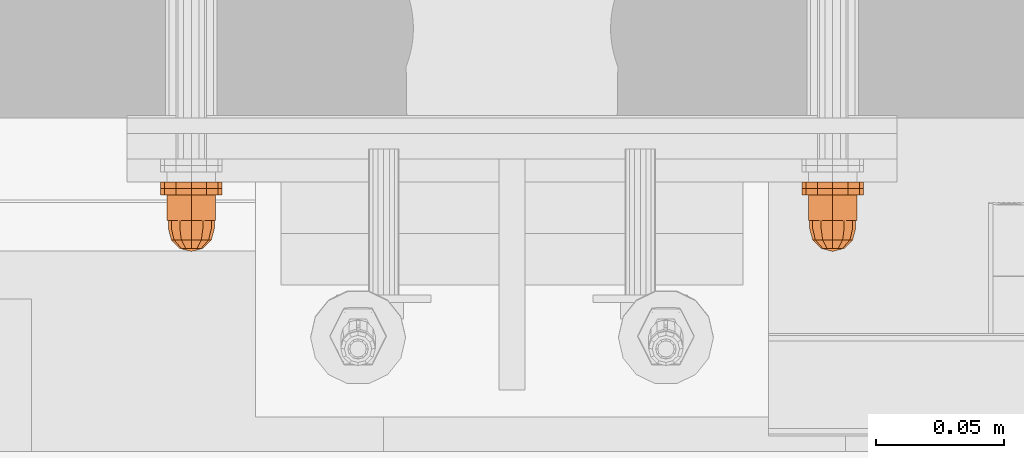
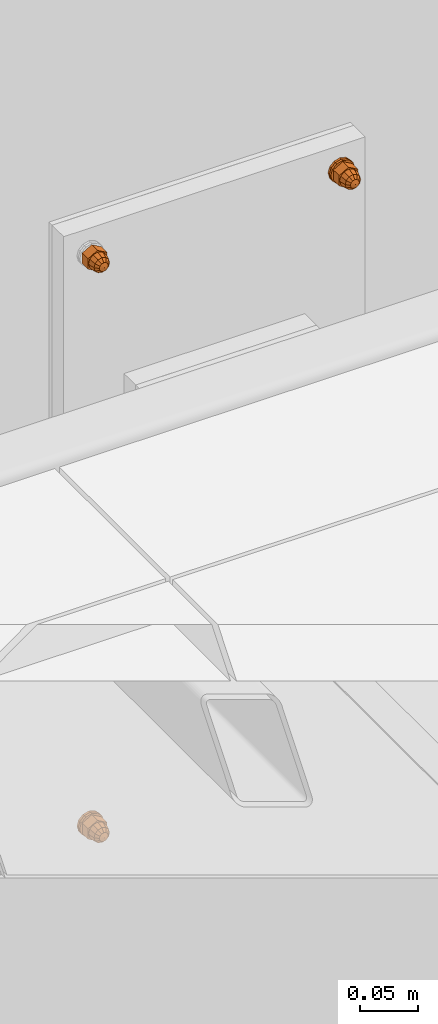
# One storey, part 153 of 162: 7 proxies.
"""IFC2X3 building model written with IfcOpenShell, lengths in millimetres."""

import ifcopenshell
import ifcopenshell.guid

model = None  # the IFC model being written
_history = None  # IfcOwnerHistory: only IFC2X3 demands one
_inside = {}  # id of a spatial element -> (the spatial element, [elements in it])
_under = {}  # id of a project, library or spatial element -> (it, [spatial elements below it])
_declared = {}  # id of a project -> (the project, [libraries it declares])
_typed = {}  # id of a type object -> (the type object, [elements of that type])
_made_of = {}  # id of a material, layer set ... -> (it, [elements and type objects made of it])


def new_model(schema):
    """Start an empty IFC model of exactly this schema.

    Asked for "IFC4X3", IfcOpenShell would pick the latest addendum, in which some entities
    have other attributes; the version numbers below select the first issue.
    IFC2X3 requires an IfcOwnerHistory on every rooted entity: one is made here for all.
    """
    global model, _history
    if schema == "IFC4X3":
        model = ifcopenshell.file(schema_version=(4, 3, 0, 0))
    else:
        model = ifcopenshell.file(schema=schema)
    _inside.clear()
    _under.clear()
    _declared.clear()
    _typed.clear()
    _made_of.clear()
    _history = None
    if model.schema == "IFC2X3":
        org = make("IfcOrganization", Name="unknown")
        user = make(
            "IfcPersonAndOrganization",
            ThePerson=make("IfcPerson", FamilyName="unknown"),
            TheOrganization=org,
        )
        app = make(
            "IfcApplication",
            ApplicationDeveloper=org,
            Version="unknown",
            ApplicationFullName="unknown",
            ApplicationIdentifier="unknown",
        )
        _history = make(
            "IfcOwnerHistory",
            OwningUser=user,
            OwningApplication=app,
            ChangeAction="ADDED",
            CreationDate=0,
        )
    return model


def make(cls, **values):
    """One entity of the class cls with the attributes given. An attribute that is None is left unset."""
    return model.create_entity(
        cls, **{name: value for name, value in values.items() if value is not None}
    )


def entity(cls, *values):
    """Any entity or typed value of the class cls, its attributes in the order of the schema. None: left unset."""
    e = model.create_entity(cls)
    for i, value in enumerate(values):
        if value is not None:
            e[i] = value
    return e


def rooted(cls, **values):
    """An entity with a GlobalId (a new one), such as an element, a storey or a relation."""
    return make(cls, GlobalId=ifcopenshell.guid.new(), OwnerHistory=_history, **values)


def si_unit(unit_type, name, prefix=None):
    """IfcSIUnit, for example si_unit("LENGTHUNIT", "METRE", prefix="MILLI")."""
    return make("IfcSIUnit", UnitType=unit_type, Prefix=prefix, Name=name)


def converted_unit(unit_type, name, factor, base, dimensions=None, offset=None):
    """IfcConversionBasedUnit, such as the inch: factor (a typed value) times the base unit."""
    return make(
        "IfcConversionBasedUnit"
        if offset is None
        else "IfcConversionBasedUnitWithOffset",
        ConversionOffset=offset,
        Dimensions=None
        if dimensions is None
        else entity("IfcDimensionalExponents", *dimensions),
        UnitType=unit_type,
        Name=name,
        ConversionFactor=make(
            "IfcMeasureWithUnit", ValueComponent=factor, UnitComponent=base
        ),
    )


def assignment(units):
    """IfcUnitAssignment: the units of a project."""
    return None if units is None else make("IfcUnitAssignment", Units=units)


def point(xyz):
    """IfcCartesianPoint."""
    return None if xyz is None else make("IfcCartesianPoint", Coordinates=xyz)


def direction(xyz):
    """IfcDirection."""
    return None if xyz is None else make("IfcDirection", DirectionRatios=xyz)


def frame(location, z_axis=None, x_axis=None):
    """IfcAxis2Placement3D, a coordinate frame: its origin and axes. An axis left out is left unset."""
    return make(
        "IfcAxis2Placement3D",
        Location=point(location),
        Axis=direction(z_axis),
        RefDirection=direction(x_axis),
    )


def origin_with_axes():
    """The frame at (0, 0, 0) with the z axis (0, 0, 1) and the x axis (1, 0, 0) written out."""
    return frame((0.0, 0.0, 0.0), z_axis=(0.0, 0.0, 1.0), x_axis=(1.0, 0.0, 0.0))


def place(relative_to, where):
    """IfcLocalPlacement: puts the frame where relative to a parent placement (None: the world)."""
    return make(
        "IfcLocalPlacement", PlacementRelTo=relative_to, RelativePlacement=where
    )


def context(
    kind, dimensions, precision=None, world=None, true_north=None, identifier=None
):
    """IfcGeometricRepresentationContext, for example the 3D "Model" context."""
    return make(
        "IfcGeometricRepresentationContext",
        ContextIdentifier=identifier,
        ContextType=kind,
        CoordinateSpaceDimension=dimensions,
        Precision=precision,
        WorldCoordinateSystem=world,
        TrueNorth=true_north,
    )


def project(units=None, contexts=None):
    """IfcProject with its units and contexts."""
    return rooted(
        "IfcProject",
        Name="project",
        RepresentationContexts=contexts,
        UnitsInContext=assignment(units),
    )


def spatial(cls, under=None, at=None, **own):
    """A site, building, storey or space (cls), placed at a placement, below another one or the project."""
    s = rooted(cls, ObjectPlacement=at, **own)
    if under is not None:
        _under.setdefault(under.id(), (under, []))[1].append(s)
    return s


def faces_of(points, faces, orient=None, outer=None):
    """IfcFace entities. A face is a list of loops; a loop is a list of indices into points, from 0.

    orient and outer hold one flag for each loop. By default every Orientation is true, the
    first loop of a face is its IfcFaceOuterBound and the others are IfcFaceBound.
    """
    made = []
    for i, loops in enumerate(faces):
        bounds = []
        for j, loop in enumerate(loops):
            is_outer = j == 0 if outer is None else outer[i][j]
            bounds.append(
                make(
                    "IfcFaceOuterBound" if is_outer else "IfcFaceBound",
                    Bound=make("IfcPolyLoop", Polygon=[points[k] for k in loop]),
                    Orientation=True if orient is None else orient[i][j],
                )
            )
        made.append(make("IfcFace", Bounds=bounds))
    return made


def faceted_brep(points, faces, orient=None, outer=None, voids=None):
    """IfcFacetedBrep: a solid bounded by flat faces; with voids (closed shells), ...WithVoids."""
    shared = [point(p) for p in points]
    hull = make("IfcClosedShell", CfsFaces=faces_of(shared, faces, orient, outer))
    if voids is None:
        return make("IfcFacetedBrep", Outer=hull)
    return make(
        "IfcFacetedBrepWithVoids",
        Outer=hull,
        Voids=[
            make(cls, CfsFaces=faces_of(shared, fs, o, b)) for cls, fs, o, b in voids
        ],
    )


def shape(context_of_items, identifier, shape_type, items):
    """IfcShapeRepresentation: the items that make up one representation, for example the "Body"."""
    return make(
        "IfcShapeRepresentation",
        ContextOfItems=context_of_items,
        RepresentationIdentifier=identifier,
        RepresentationType=shape_type,
        Items=items,
    )


def material(Name=None, Category=None):
    """IfcMaterial."""
    return make("IfcMaterial", Name=Name, Category=Category)


def made_of(thing, what):
    """Note that an element or type object is made of a material, layer set ...; save() writes the relation."""
    if what is not None:
        _made_of.setdefault(what.id(), (what, []))[1].append(thing)
    return thing


def element(
    cls,
    number,
    at=None,
    inside=None,
    cuts=None,
    type_object=None,
    material=None,
    context=None,
    identifier="Body",
    shape_type=None,
    held_by="IfcProductDefinitionShape",
    body=None,
    shapes=None,
    **own,
):
    """One element of the class cls, such as IfcWall. Its Tag is "e" and its number.

    at: its placement. inside: the storey or other place that contains it. cuts: it is an
    opening in that element (IfcRelVoidsElement). A single representation is given by context,
    identifier, shape_type and body (its items); several are given by shapes. held_by: the class
    of the entity that holds the representations. save() writes the other relations.
    """
    e = rooted(cls, Tag="e%d" % number, ObjectPlacement=at, **own)
    if body is not None:
        shapes = [shape(context, identifier, shape_type, body)]
    if shapes is not None:
        e.Representation = make(held_by, Representations=shapes)
    if inside is not None:
        _inside.setdefault(inside.id(), (inside, []))[1].append(e)
    if cuts is not None:
        rooted(
            "IfcRelVoidsElement", RelatingBuildingElement=cuts, RelatedOpeningElement=e
        )
    if type_object is not None:
        _typed.setdefault(type_object.id(), (type_object, []))[1].append(e)
    return made_of(e, material)


def aggregate(whole, parts):
    """IfcRelAggregates: a whole, such as a stair, and the parts it consists of."""
    return rooted("IfcRelAggregates", RelatingObject=whole, RelatedObjects=parts)


def save(model, path):
    """Write the relations noted so far, then the file.

    IfcRelAggregates (storeys below a building ...), IfcRelContainedInSpatialStructure (elements
    in a storey), IfcRelDefinesByType, IfcRelAssociatesMaterial and IfcRelDeclares: one each for
    every whole, place, type object, material and project.
    """
    for whole, parts in _under.values():
        aggregate(whole, parts)
    for where, things in _inside.values():
        rooted(
            "IfcRelContainedInSpatialStructure",
            RelatedElements=things,
            RelatingStructure=where,
        )
    for kind, things in _typed.values():
        rooted("IfcRelDefinesByType", RelatedObjects=things, RelatingType=kind)
    for what, things in _made_of.values():
        rooted("IfcRelAssociatesMaterial", RelatedObjects=things, RelatingMaterial=what)
    for by, libraries in _declared.values():
        rooted("IfcRelDeclares", RelatingContext=by, RelatedDefinitions=libraries)
    model.write(path)


model = new_model("IFC2X3")

# Units and contexts
model_context = context("Model", 3, precision=1e-09, world=origin_with_axes())
ifc_project = project(units=[si_unit("LENGTHUNIT", "METRE", prefix="MILLI"), si_unit("AREAUNIT", "SQUARE_METRE"), si_unit("VOLUMEUNIT", "CUBIC_METRE"), converted_unit("PLANEANGLEUNIT", "DEGREE", entity("IfcPlaneAngleMeasure", 0.01745329), si_unit("PLANEANGLEUNIT", "RADIAN"), dimensions=[0, 0, 0, 0, 0, 0, 0])], contexts=[model_context])

# Site, building, storey
site_placement = place(None, origin_with_axes())
site = spatial("IfcSite", under=ifc_project, at=site_placement, Name="Hermannstra?e 1a, 60318 Frankfurt", CompositionType="ELEMENT")
building_placement = place(site_placement, origin_with_axes())
building = spatial("IfcBuilding", under=site, at=building_placement, Name="Struktur 1", CompositionType="ELEMENT")
storey_placement = place(building_placement, origin_with_axes())
storey = spatial("IfcBuildingStorey", under=building, at=storey_placement, Name="Default Storey", CompositionType="ELEMENT", Elevation=0.0)

# Proxies
ifc_material_1 = material(Name="Kunststoff")
proxy_1_placement = place(None, origin_with_axes())
element("IfcBuildingElementProxy", 1, at=proxy_1_placement, inside=storey, material=ifc_material_1, ObjectType="-", context=model_context, shape_type="Brep", body=[
    faceted_brep([(5458.702376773, 2710.610081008, 14767.999), (5458.702376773, 2708.110081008, 14767.999), (5460.310071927, 2708.110081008, 14761.999), (5460.310071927, 2710.610081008, 14761.999), (5453.939237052, 2710.610081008, 14765.249), (5451.560071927, 2710.610081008, 14767.628165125), (5448.310071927, 2710.610081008, 14768.499), (5445.060071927, 2710.610081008, 14767.628165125), (5442.680906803, 2710.610081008, 14765.249), (5441.810071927, 2710.610081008, 14761.999), (5442.680906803, 2710.610081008, 14758.749), (5445.060071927, 2710.610081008, 14756.369834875), (5448.310071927, 2710.610081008, 14755.499), (5451.560071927, 2710.610081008, 14756.369834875), (5453.939237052, 2710.610081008, 14758.749), (5454.810071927, 2710.610081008, 14761.999), (5454.810071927, 2708.110081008, 14761.999), (5453.939237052, 2708.110081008, 14765.249), (5454.310071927, 2708.110081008, 14772.391304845), (5448.310071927, 2708.110081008, 14773.999), (5442.310071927, 2708.110081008, 14772.391304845), (5437.917767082, 2708.110081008, 14767.999), (5436.310071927, 2708.110081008, 14761.999), (5437.917767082, 2708.110081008, 14755.999), (5442.310071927, 2708.110081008, 14751.606695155), (5448.310071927, 2708.110081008, 14749.999), (5454.310071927, 2708.110081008, 14751.606695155), (5458.702376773, 2708.110081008, 14755.999), (5454.310071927, 2710.610081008, 14772.391304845), (5453.939237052, 2708.110081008, 14758.749), (5458.702376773, 2710.610081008, 14755.999), (5451.560071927, 2708.110081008, 14767.628165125), (5448.310071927, 2710.610081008, 14773.999), (5451.560071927, 2708.110081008, 14756.369834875), (5454.310071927, 2710.610081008, 14751.606695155), (5448.310071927, 2708.110081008, 14768.499), (5448.310071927, 2708.110081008, 14755.499), (5442.310071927, 2710.610081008, 14772.391304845), (5445.060071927, 2708.110081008, 14767.628165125), (5448.310071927, 2710.610081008, 14749.999), (5445.060071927, 2708.110081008, 14756.369834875), (5437.917767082, 2710.610081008, 14767.999), (5442.680906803, 2708.110081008, 14765.249), (5442.310071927, 2710.610081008, 14751.606695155), (5442.680906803, 2708.110081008, 14758.749), (5436.310071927, 2710.610081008, 14761.999), (5441.810071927, 2708.110081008, 14761.999), (5437.917767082, 2710.610081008, 14755.999)], [[[0, 1, 2, 3]], [[4, 5, 6, 7, 8, 9, 10, 11, 12, 13, 14, 15]], [[15, 16, 17, 4]], [[1, 18, 19, 20, 21, 22, 23, 24, 25, 26, 27, 2]], [[1, 0, 28, 18]], [[16, 15, 14, 29]], [[3, 2, 27, 30]], [[4, 17, 31, 5]], [[18, 28, 32, 19]], [[29, 14, 13, 33]], [[30, 27, 26, 34]], [[5, 31, 35, 6]], [[33, 13, 12, 36]], [[19, 32, 37, 20]], [[6, 35, 38, 7]], [[34, 26, 25, 39]], [[36, 12, 11, 40]], [[20, 37, 41, 21]], [[7, 38, 42, 8]], [[39, 25, 24, 43]], [[40, 11, 10, 44]], [[21, 41, 45, 22]], [[8, 42, 46, 9]], [[43, 24, 23, 47]], [[44, 10, 9, 46]], [[22, 45, 47, 23]]]),
])
ifc_material_2 = material(Name="A4")
proxy_2_placement = place(None, origin_with_axes())
element("IfcBuildingElementProxy", 2, at=proxy_2_placement, inside=storey, material=ifc_material_2, ObjectType="-", context=model_context, shape_type="Brep", body=[
    faceted_brep([(5437.917767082, 2708.110081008, 14767.999), (5437.917767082, 2705.610081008, 14767.999), (5442.310071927, 2705.610081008, 14772.391304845), (5442.310071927, 2708.110081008, 14772.391304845), (5436.310071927, 2705.610081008, 14761.999), (5437.917767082, 2705.610081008, 14755.999), (5442.310071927, 2705.610081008, 14751.606695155), (5448.310071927, 2705.610081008, 14749.999), (5454.310071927, 2705.610081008, 14751.606695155), (5458.702376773, 2705.610081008, 14755.999), (5460.310071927, 2705.610081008, 14761.999), (5458.702376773, 2705.610081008, 14767.999), (5454.310071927, 2705.610081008, 14772.391304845), (5448.310071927, 2705.610081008, 14773.999), (5448.310071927, 2705.610081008, 14768.499), (5451.560071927, 2705.610081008, 14767.628165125), (5453.939237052, 2705.610081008, 14765.249), (5454.810071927, 2705.610081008, 14761.999), (5453.939237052, 2705.610081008, 14758.749), (5451.560071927, 2705.610081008, 14756.369834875), (5448.310071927, 2705.610081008, 14755.499), (5445.060071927, 2705.610081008, 14756.369834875), (5442.680906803, 2705.610081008, 14758.749), (5441.810071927, 2705.610081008, 14761.999), (5442.680906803, 2705.610081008, 14765.249), (5445.060071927, 2705.610081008, 14767.628165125), (5442.680906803, 2708.110081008, 14765.249), (5441.810071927, 2708.110081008, 14761.999), (5442.680906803, 2708.110081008, 14758.749), (5445.060071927, 2708.110081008, 14756.369834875), (5448.310071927, 2708.110081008, 14755.499), (5451.560071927, 2708.110081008, 14756.369834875), (5453.939237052, 2708.110081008, 14758.749), (5454.810071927, 2708.110081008, 14761.999), (5453.939237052, 2708.110081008, 14765.249), (5451.560071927, 2708.110081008, 14767.628165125), (5448.310071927, 2708.110081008, 14768.499), (5445.060071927, 2708.110081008, 14767.628165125), (5436.310071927, 2708.110081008, 14761.999), (5448.310071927, 2708.110081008, 14773.999), (5437.917767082, 2708.110081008, 14755.999), (5454.310071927, 2708.110081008, 14772.391304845), (5442.310071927, 2708.110081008, 14751.606695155), (5458.702376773, 2708.110081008, 14767.999), (5448.310071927, 2708.110081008, 14749.999), (5460.310071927, 2708.110081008, 14761.999), (5454.310071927, 2708.110081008, 14751.606695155), (5458.702376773, 2708.110081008, 14755.999)], [[[0, 1, 2, 3]], [[2, 1, 4, 5, 6, 7, 8, 9, 10, 11, 12, 13], [14, 15, 16, 17, 18, 19, 20, 21, 22, 23, 24, 25]], [[26, 27, 28, 29, 30, 31, 32, 33, 34, 35, 36, 37]], [[24, 26, 37, 25]], [[1, 0, 38, 4]], [[26, 24, 23, 27]], [[25, 37, 36, 14]], [[3, 2, 13, 39]], [[4, 38, 40, 5]], [[27, 23, 22, 28]], [[14, 36, 35, 15]], [[39, 13, 12, 41]], [[5, 40, 42, 6]], [[28, 22, 21, 29]], [[15, 35, 34, 16]], [[41, 12, 11, 43]], [[33, 17, 16, 34]], [[6, 42, 44, 7]], [[29, 21, 20, 30]], [[32, 18, 17, 33]], [[43, 11, 10, 45]], [[19, 31, 30, 20]], [[18, 32, 31, 19]], [[7, 44, 46, 8]], [[45, 10, 9, 47]], [[8, 46, 47, 9]]]),
])
proxy_3_placement = place(None, origin_with_axes())
element("IfcBuildingElementProxy", 3, at=proxy_3_placement, inside=storey, material=ifc_material_2, ObjectType="-", context=model_context, shape_type="Brep", body=[
    faceted_brep([(5454.310071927, 2695.610081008, 14761.999), (5454.310071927, 2705.610081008, 14761.999), (5453.50622435, 2705.610081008, 14758.999), (5453.50622435, 2695.610081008, 14758.999), (5451.310071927, 2705.610081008, 14756.802847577), (5451.310071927, 2695.610081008, 14756.802847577), (5453.50622435, 2695.610081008, 14764.999), (5453.50622435, 2705.610081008, 14764.999), (5457.789941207, 2705.610081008, 14767.472205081), (5457.789941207, 2705.610081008, 14756.525794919), (5448.310071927, 2705.610081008, 14751.052589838), (5438.830202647, 2705.610081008, 14756.525794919), (5438.830202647, 2705.610081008, 14767.472205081), (5448.310071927, 2705.610081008, 14772.945410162), (5451.310071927, 2705.610081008, 14767.195152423), (5448.310071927, 2705.610081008, 14767.999), (5445.310071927, 2705.610081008, 14767.195152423), (5443.113919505, 2705.610081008, 14764.999), (5442.310071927, 2705.610081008, 14761.999), (5443.113919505, 2705.610081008, 14758.999), (5445.310071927, 2705.610081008, 14756.802847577), (5448.310071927, 2705.610081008, 14755.999), (5457.789941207, 2695.610081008, 14767.472205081), (5448.310071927, 2695.610081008, 14772.945410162), (5438.830202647, 2695.610081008, 14767.472205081), (5438.830202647, 2695.610081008, 14756.525794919), (5448.310071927, 2695.610081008, 14751.052589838), (5457.789941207, 2695.610081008, 14756.525794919), (5451.310071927, 2695.610081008, 14767.195152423), (5448.310071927, 2695.610081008, 14755.999), (5448.310071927, 2695.610081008, 14767.999), (5445.310071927, 2695.610081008, 14756.802847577), (5445.310071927, 2695.610081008, 14767.195152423), (5443.113919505, 2695.610081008, 14758.999), (5443.113919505, 2695.610081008, 14764.999), (5442.310071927, 2695.610081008, 14761.999)], [[[0, 1, 2, 3]], [[3, 2, 4, 5]], [[1, 0, 6, 7]], [[8, 9, 10, 11, 12, 13], [7, 14, 15, 16, 17, 18, 19, 20, 21, 4, 2, 1]], [[22, 23, 24, 25, 26, 27]], [[7, 6, 28, 14]], [[22, 27, 9, 8]], [[5, 4, 21, 29]], [[10, 9, 27, 26]], [[14, 28, 30, 15]], [[23, 22, 8, 13]], [[29, 21, 20, 31]], [[11, 10, 26, 25]], [[15, 30, 32, 16]], [[24, 23, 13, 12]], [[31, 20, 19, 33]], [[25, 24, 12, 11]], [[16, 32, 34, 17]], [[33, 19, 18, 35]], [[17, 34, 35, 18]]]),
    faceted_brep([(5448.310071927, 2692.610081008, 14770.999), (5448.310071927, 2695.610081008, 14770.999), (5443.810071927, 2695.610081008, 14769.793228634), (5443.810071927, 2692.610081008, 14769.793228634), (5452.810071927, 2692.610081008, 14769.793228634), (5452.810071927, 2695.610081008, 14769.793228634), (5452.810071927, 2692.610081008, 14754.204771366), (5456.104300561, 2692.610081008, 14757.499), (5457.310071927, 2692.610081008, 14761.999), (5456.104300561, 2692.610081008, 14766.499), (5440.515843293, 2692.610081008, 14766.499), (5439.310071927, 2692.610081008, 14761.999), (5440.515843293, 2692.610081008, 14757.499), (5443.810071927, 2692.610081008, 14754.204771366), (5448.310071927, 2692.610081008, 14752.999), (5443.810071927, 2695.610081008, 14754.204771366), (5440.515843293, 2695.610081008, 14757.499), (5439.310071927, 2695.610081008, 14761.999), (5440.515843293, 2695.610081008, 14766.499), (5456.104300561, 2695.610081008, 14766.499), (5457.310071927, 2695.610081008, 14761.999), (5456.104300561, 2695.610081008, 14757.499), (5452.810071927, 2695.610081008, 14754.204771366), (5448.310071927, 2695.610081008, 14752.999)], [[[0, 1, 2, 3]], [[1, 0, 4, 5]], [[6, 7, 8, 9, 4, 0, 3, 10, 11, 12, 13, 14]], [[15, 16, 17, 18, 2, 1, 5, 19, 20, 21, 22, 23]], [[3, 2, 18, 10]], [[5, 4, 9, 19]], [[10, 18, 17, 11]], [[19, 9, 8, 20]], [[22, 6, 14, 23]], [[7, 21, 20, 8]], [[6, 22, 21, 7]], [[11, 17, 16, 12]], [[23, 14, 13, 15]], [[12, 16, 15, 13]]]),
    faceted_brep([(5455.060071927, 2688.110081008, 14765.896114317), (5456.104300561, 2692.610081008, 14766.499), (5452.810071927, 2692.610081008, 14769.793228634), (5452.207186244, 2688.110081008, 14768.749), (5443.810071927, 2692.610081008, 14754.204771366), (5440.515843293, 2692.610081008, 14757.499), (5439.310071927, 2692.610081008, 14761.999), (5440.515843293, 2692.610081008, 14766.499), (5443.810071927, 2692.610081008, 14769.793228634), (5448.310071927, 2692.610081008, 14770.999), (5457.310071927, 2692.610081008, 14761.999), (5456.104300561, 2692.610081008, 14757.499), (5452.810071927, 2692.610081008, 14754.204771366), (5448.310071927, 2692.610081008, 14752.999), (5448.310071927, 2688.110081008, 14769.793228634), (5452.810071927, 2684.815852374, 14761.999), (5456.104300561, 2688.110081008, 14761.999), (5452.207186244, 2684.815852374, 14764.249), (5444.41295761, 2688.110081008, 14768.749), (5450.560071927, 2684.815852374, 14765.896114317), (5452.207186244, 2684.815852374, 14759.749), (5455.060071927, 2688.110081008, 14758.101885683), (5448.310071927, 2684.815852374, 14766.499), (5448.310071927, 2683.610081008, 14761.999), (5450.560071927, 2684.815852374, 14758.101885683), (5452.207186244, 2688.110081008, 14755.249), (5448.310071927, 2688.110081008, 14754.204771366), (5441.560071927, 2688.110081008, 14765.896114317), (5446.060071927, 2684.815852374, 14765.896114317), (5448.310071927, 2684.815852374, 14757.499), (5444.41295761, 2688.110081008, 14755.249), (5446.060071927, 2684.815852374, 14758.101885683), (5440.515843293, 2688.110081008, 14761.999), (5444.41295761, 2684.815852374, 14764.249), (5441.560071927, 2688.110081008, 14758.101885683), (5444.41295761, 2684.815852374, 14759.749), (5443.810071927, 2684.815852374, 14761.999)], [[[0, 1, 2, 3]], [[4, 5, 6, 7, 8, 9, 2, 1, 10, 11, 12, 13]], [[3, 2, 9, 14]], [[15, 16, 0, 17]], [[1, 0, 16, 10]], [[14, 9, 8, 18]], [[17, 0, 3, 19]], [[16, 15, 20, 21]], [[19, 3, 14, 22]], [[17, 23, 15]], [[24, 25, 21, 20]], [[15, 23, 20]], [[12, 25, 26, 13]], [[11, 21, 25, 12]], [[10, 16, 21, 11]], [[18, 8, 7, 27]], [[22, 14, 18, 28]], [[19, 23, 17]], [[29, 26, 25, 24]], [[20, 23, 24]], [[22, 23, 19]], [[13, 26, 30, 4]], [[26, 29, 31, 30]], [[24, 23, 29]], [[27, 7, 6, 32]], [[28, 18, 27, 33]], [[28, 23, 22]], [[29, 23, 31]], [[33, 23, 28]], [[4, 30, 34, 5]], [[30, 31, 35, 34]], [[31, 23, 35]], [[32, 6, 5, 34]], [[33, 27, 32, 36]], [[36, 23, 33]], [[35, 23, 36]], [[34, 35, 36, 32]]]),
])
proxy_4_placement = place(None, origin_with_axes())
element("IfcBuildingElementProxy", 4, at=proxy_4_placement, inside=storey, material=ifc_material_2, ObjectType="-", context=model_context, shape_type="Brep", body=[
    faceted_brep([(5704.310071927, 2705.610081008, 15361.999), (5704.310071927, 2695.610081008, 15361.999), (5703.50622435, 2695.610081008, 15364.999), (5703.50622435, 2705.610081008, 15364.999), (5701.310071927, 2695.610081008, 15367.195152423), (5701.310071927, 2705.610081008, 15367.195152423), (5703.50622435, 2705.610081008, 15358.999), (5703.50622435, 2695.610081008, 15358.999), (5707.789941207, 2705.610081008, 15356.525794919), (5698.310071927, 2705.610081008, 15351.052589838), (5688.830202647, 2705.610081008, 15356.525794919), (5688.830202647, 2705.610081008, 15367.472205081), (5698.310071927, 2705.610081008, 15372.945410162), (5707.789941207, 2705.610081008, 15367.472205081), (5701.310071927, 2705.610081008, 15356.802847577), (5698.310071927, 2705.610081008, 15367.999), (5695.310071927, 2705.610081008, 15367.195152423), (5693.113919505, 2705.610081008, 15364.999), (5692.310071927, 2705.610081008, 15361.999), (5693.113919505, 2705.610081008, 15358.999), (5695.310071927, 2705.610081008, 15356.802847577), (5698.310071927, 2705.610081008, 15355.999), (5698.310071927, 2695.610081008, 15351.052589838), (5707.789941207, 2695.610081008, 15356.525794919), (5707.789941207, 2695.610081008, 15367.472205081), (5698.310071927, 2695.610081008, 15372.945410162), (5688.830202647, 2695.610081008, 15367.472205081), (5688.830202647, 2695.610081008, 15356.525794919), (5701.310071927, 2695.610081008, 15356.802847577), (5698.310071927, 2695.610081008, 15355.999), (5695.310071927, 2695.610081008, 15356.802847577), (5693.113919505, 2695.610081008, 15358.999), (5692.310071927, 2695.610081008, 15361.999), (5693.113919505, 2695.610081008, 15364.999), (5695.310071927, 2695.610081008, 15367.195152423), (5698.310071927, 2695.610081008, 15367.999)], [[[0, 1, 2, 3]], [[3, 2, 4, 5]], [[1, 0, 6, 7]], [[8, 9, 10, 11, 12, 13], [14, 6, 0, 3, 5, 15, 16, 17, 18, 19, 20, 21]], [[22, 23, 24, 25, 26, 27], [1, 7, 28, 29, 30, 31, 32, 33, 34, 35, 4, 2]], [[7, 6, 14, 28]], [[24, 23, 8, 13]], [[5, 4, 35, 15]], [[13, 12, 25, 24]], [[28, 14, 21, 29]], [[23, 22, 9, 8]], [[15, 35, 34, 16]], [[12, 11, 26, 25]], [[29, 21, 20, 30]], [[22, 27, 10, 9]], [[16, 34, 33, 17]], [[27, 26, 11, 10]], [[30, 20, 19, 31]], [[17, 33, 32, 18]], [[31, 19, 18, 32]]]),
    faceted_brep([(5698.310071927, 2695.610081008, 15352.999), (5698.310071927, 2692.610081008, 15352.999), (5693.810071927, 2692.610081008, 15354.204771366), (5693.810071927, 2695.610081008, 15354.204771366), (5702.810071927, 2695.610081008, 15354.204771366), (5702.810071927, 2692.610081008, 15354.204771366), (5706.104300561, 2692.610081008, 15366.499), (5702.810071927, 2692.610081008, 15369.793228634), (5698.310071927, 2692.610081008, 15370.999), (5693.810071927, 2692.610081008, 15369.793228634), (5690.515843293, 2692.610081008, 15366.499), (5689.310071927, 2692.610081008, 15361.999), (5690.515843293, 2692.610081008, 15357.499), (5706.104300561, 2692.610081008, 15357.499), (5707.310071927, 2692.610081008, 15361.999), (5690.515843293, 2695.610081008, 15366.499), (5693.810071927, 2695.610081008, 15369.793228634), (5698.310071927, 2695.610081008, 15370.999), (5702.810071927, 2695.610081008, 15369.793228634), (5706.104300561, 2695.610081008, 15366.499), (5707.310071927, 2695.610081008, 15361.999), (5706.104300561, 2695.610081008, 15357.499), (5690.515843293, 2695.610081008, 15357.499), (5689.310071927, 2695.610081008, 15361.999)], [[[0, 1, 2, 3]], [[1, 0, 4, 5]], [[6, 7, 8, 9, 10, 11, 12, 2, 1, 5, 13, 14]], [[15, 16, 17, 18, 19, 20, 21, 4, 0, 3, 22, 23]], [[3, 2, 12, 22]], [[5, 4, 21, 13]], [[22, 12, 11, 23]], [[13, 21, 20, 14]], [[7, 18, 17, 8]], [[19, 6, 14, 20]], [[18, 7, 6, 19]], [[23, 11, 10, 15]], [[8, 17, 16, 9]], [[15, 10, 9, 16]]]),
    faceted_brep([(5706.104300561, 2692.610081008, 15357.499), (5705.060071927, 2688.110081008, 15358.101885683), (5702.207186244, 2688.110081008, 15355.249), (5702.810071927, 2692.610081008, 15354.204771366), (5690.515843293, 2692.610081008, 15366.499), (5693.810071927, 2692.610081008, 15369.793228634), (5698.310071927, 2692.610081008, 15370.999), (5702.810071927, 2692.610081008, 15369.793228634), (5706.104300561, 2692.610081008, 15366.499), (5707.310071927, 2692.610081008, 15361.999), (5698.310071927, 2692.610081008, 15352.999), (5693.810071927, 2692.610081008, 15354.204771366), (5690.515843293, 2692.610081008, 15357.499), (5689.310071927, 2692.610081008, 15361.999), (5698.310071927, 2688.110081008, 15354.204771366), (5706.104300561, 2688.110081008, 15361.999), (5702.810071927, 2684.815852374, 15361.999), (5702.207186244, 2684.815852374, 15359.749), (5694.41295761, 2688.110081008, 15355.249), (5700.560071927, 2684.815852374, 15358.101885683), (5705.060071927, 2688.110081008, 15365.896114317), (5702.207186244, 2684.815852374, 15364.249), (5698.310071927, 2684.815852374, 15357.499), (5698.310071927, 2683.610081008, 15361.999), (5702.207186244, 2688.110081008, 15368.749), (5700.560071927, 2684.815852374, 15365.896114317), (5698.310071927, 2688.110081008, 15369.793228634), (5691.560071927, 2688.110081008, 15358.101885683), (5696.060071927, 2684.815852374, 15358.101885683), (5698.310071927, 2684.815852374, 15366.499), (5694.41295761, 2688.110081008, 15368.749), (5696.060071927, 2684.815852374, 15365.896114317), (5690.515843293, 2688.110081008, 15361.999), (5694.41295761, 2684.815852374, 15359.749), (5691.560071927, 2688.110081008, 15365.896114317), (5694.41295761, 2684.815852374, 15364.249), (5693.810071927, 2684.815852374, 15361.999)], [[[0, 1, 2, 3]], [[4, 5, 6, 7, 8, 9, 0, 3, 10, 11, 12, 13]], [[3, 2, 14, 10]], [[15, 16, 17, 1]], [[1, 0, 9, 15]], [[10, 14, 18, 11]], [[1, 17, 19, 2]], [[16, 15, 20, 21]], [[2, 19, 22, 14]], [[23, 17, 16]], [[24, 25, 21, 20]], [[23, 16, 21]], [[24, 7, 6, 26]], [[20, 8, 7, 24]], [[15, 9, 8, 20]], [[11, 18, 27, 12]], [[14, 22, 28, 18]], [[23, 19, 17]], [[26, 29, 25, 24]], [[23, 21, 25]], [[23, 22, 19]], [[26, 6, 5, 30]], [[29, 26, 30, 31]], [[23, 25, 29]], [[12, 27, 32, 13]], [[18, 28, 33, 27]], [[23, 28, 22]], [[23, 29, 31]], [[23, 33, 28]], [[30, 5, 4, 34]], [[31, 30, 34, 35]], [[23, 31, 35]], [[13, 32, 34, 4]], [[27, 33, 36, 32]], [[23, 36, 33]], [[23, 35, 36]], [[35, 34, 32, 36]]]),
])
proxy_5_placement = place(None, origin_with_axes())
element("IfcBuildingElementProxy", 5, at=proxy_5_placement, inside=storey, material=ifc_material_2, ObjectType="-", context=model_context, shape_type="Brep", body=[
    faceted_brep([(5687.917767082, 2705.610081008, 15355.999), (5687.917767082, 2708.110081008, 15355.999), (5692.310071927, 2708.110081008, 15351.606695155), (5692.310071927, 2705.610081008, 15351.606695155), (5698.310071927, 2705.610081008, 15349.999), (5704.310071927, 2705.610081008, 15351.606695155), (5708.702376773, 2705.610081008, 15355.999), (5710.310071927, 2705.610081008, 15361.999), (5708.702376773, 2705.610081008, 15367.999), (5704.310071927, 2705.610081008, 15372.391304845), (5698.310071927, 2705.610081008, 15373.999), (5692.310071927, 2705.610081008, 15372.391304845), (5687.917767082, 2705.610081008, 15367.999), (5686.310071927, 2705.610081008, 15361.999), (5701.560071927, 2705.610081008, 15356.369834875), (5698.310071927, 2705.610081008, 15355.499), (5695.060071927, 2705.610081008, 15356.369834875), (5692.680906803, 2705.610081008, 15358.749), (5691.810071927, 2705.610081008, 15361.999), (5692.680906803, 2705.610081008, 15365.249), (5695.060071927, 2705.610081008, 15367.628165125), (5698.310071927, 2705.610081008, 15368.499), (5701.560071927, 2705.610081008, 15367.628165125), (5703.939237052, 2705.610081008, 15365.249), (5704.810071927, 2705.610081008, 15361.999), (5703.939237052, 2705.610081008, 15358.749), (5686.310071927, 2708.110081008, 15361.999), (5687.917767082, 2708.110081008, 15367.999), (5692.310071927, 2708.110081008, 15372.391304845), (5698.310071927, 2708.110081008, 15373.999), (5704.310071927, 2708.110081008, 15372.391304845), (5708.702376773, 2708.110081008, 15367.999), (5710.310071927, 2708.110081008, 15361.999), (5708.702376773, 2708.110081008, 15355.999), (5704.310071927, 2708.110081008, 15351.606695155), (5698.310071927, 2708.110081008, 15349.999), (5691.810071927, 2708.110081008, 15361.999), (5692.680906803, 2708.110081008, 15358.749), (5695.060071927, 2708.110081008, 15356.369834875), (5698.310071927, 2708.110081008, 15355.499), (5701.560071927, 2708.110081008, 15356.369834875), (5703.939237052, 2708.110081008, 15358.749), (5704.810071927, 2708.110081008, 15361.999), (5703.939237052, 2708.110081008, 15365.249), (5701.560071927, 2708.110081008, 15367.628165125), (5698.310071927, 2708.110081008, 15368.499), (5695.060071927, 2708.110081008, 15367.628165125), (5692.680906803, 2708.110081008, 15365.249)], [[[0, 1, 2, 3]], [[3, 4, 5, 6, 7, 8, 9, 10, 11, 12, 13, 0], [14, 15, 16, 17, 18, 19, 20, 21, 22, 23, 24, 25]], [[1, 26, 27, 28, 29, 30, 31, 32, 33, 34, 35, 2], [36, 37, 38, 39, 40, 41, 42, 43, 44, 45, 46, 47]], [[37, 17, 16, 38]], [[1, 0, 13, 26]], [[17, 37, 36, 18]], [[38, 16, 15, 39]], [[3, 2, 35, 4]], [[26, 13, 12, 27]], [[18, 36, 47, 19]], [[39, 15, 14, 40]], [[4, 35, 34, 5]], [[27, 12, 11, 28]], [[19, 47, 46, 20]], [[40, 14, 25, 41]], [[5, 34, 33, 6]], [[24, 42, 41, 25]], [[28, 11, 10, 29]], [[20, 46, 45, 21]], [[23, 43, 42, 24]], [[6, 33, 32, 7]], [[44, 22, 21, 45]], [[43, 23, 22, 44]], [[29, 10, 9, 30]], [[7, 32, 31, 8]], [[30, 9, 8, 31]]]),
])
proxy_6_placement = place(None, origin_with_axes())
element("IfcBuildingElementProxy", 6, at=proxy_6_placement, inside=storey, material=ifc_material_1, ObjectType="-", context=model_context, shape_type="Brep", body=[
    faceted_brep([(5708.702376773, 2708.110081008, 15355.999), (5708.702376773, 2710.610081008, 15355.999), (5710.310071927, 2710.610081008, 15361.999), (5710.310071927, 2708.110081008, 15361.999), (5704.310071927, 2710.610081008, 15351.606695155), (5698.310071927, 2710.610081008, 15349.999), (5692.310071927, 2710.610081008, 15351.606695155), (5687.917767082, 2710.610081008, 15355.999), (5686.310071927, 2710.610081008, 15361.999), (5687.917767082, 2710.610081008, 15367.999), (5692.310071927, 2710.610081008, 15372.391304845), (5698.310071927, 2710.610081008, 15373.999), (5704.310071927, 2710.610081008, 15372.391304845), (5708.702376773, 2710.610081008, 15367.999), (5701.560071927, 2710.610081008, 15356.369834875), (5703.939237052, 2710.610081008, 15358.749), (5704.810071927, 2710.610081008, 15361.999), (5703.939237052, 2710.610081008, 15365.249), (5701.560071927, 2710.610081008, 15367.628165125), (5698.310071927, 2710.610081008, 15368.499), (5695.060071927, 2710.610081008, 15367.628165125), (5692.680906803, 2710.610081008, 15365.249), (5691.810071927, 2710.610081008, 15361.999), (5692.680906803, 2710.610081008, 15358.749), (5695.060071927, 2710.610081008, 15356.369834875), (5698.310071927, 2710.610081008, 15355.499), (5704.810071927, 2708.110081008, 15361.999), (5703.939237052, 2708.110081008, 15358.749), (5704.310071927, 2708.110081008, 15351.606695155), (5708.702376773, 2708.110081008, 15367.999), (5704.310071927, 2708.110081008, 15372.391304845), (5698.310071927, 2708.110081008, 15373.999), (5692.310071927, 2708.110081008, 15372.391304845), (5687.917767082, 2708.110081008, 15367.999), (5686.310071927, 2708.110081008, 15361.999), (5687.917767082, 2708.110081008, 15355.999), (5692.310071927, 2708.110081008, 15351.606695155), (5698.310071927, 2708.110081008, 15349.999), (5701.560071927, 2708.110081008, 15356.369834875), (5698.310071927, 2708.110081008, 15355.499), (5695.060071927, 2708.110081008, 15356.369834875), (5692.680906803, 2708.110081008, 15358.749), (5691.810071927, 2708.110081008, 15361.999), (5692.680906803, 2708.110081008, 15365.249), (5695.060071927, 2708.110081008, 15367.628165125), (5698.310071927, 2708.110081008, 15368.499), (5701.560071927, 2708.110081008, 15367.628165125), (5703.939237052, 2708.110081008, 15365.249)], [[[0, 1, 2, 3]], [[1, 4, 5, 6, 7, 8, 9, 10, 11, 12, 13, 2], [14, 15, 16, 17, 18, 19, 20, 21, 22, 23, 24, 25]], [[26, 16, 15, 27]], [[28, 0, 3, 29, 30, 31, 32, 33, 34, 35, 36, 37], [26, 27, 38, 39, 40, 41, 42, 43, 44, 45, 46, 47]], [[1, 0, 28, 4]], [[16, 26, 47, 17]], [[3, 2, 13, 29]], [[27, 15, 14, 38]], [[4, 28, 37, 5]], [[17, 47, 46, 18]], [[29, 13, 12, 30]], [[38, 14, 25, 39]], [[18, 46, 45, 19]], [[5, 37, 36, 6]], [[39, 25, 24, 40]], [[30, 12, 11, 31]], [[19, 45, 44, 20]], [[6, 36, 35, 7]], [[40, 24, 23, 41]], [[31, 11, 10, 32]], [[20, 44, 43, 21]], [[7, 35, 34, 8]], [[41, 23, 22, 42]], [[32, 10, 9, 33]], [[21, 43, 42, 22]], [[8, 34, 33, 9]]]),
])
proxy_7_placement = place(None, origin_with_axes())
element("IfcBuildingElementProxy", 7, at=proxy_7_placement, inside=storey, material=ifc_material_2, ObjectType="-", context=model_context, shape_type="Brep", body=[
    faceted_brep([(5454.310071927, 2705.610081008, 15361.999), (5454.310071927, 2695.610081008, 15361.999), (5453.50622435, 2695.610081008, 15364.999), (5453.50622435, 2705.610081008, 15364.999), (5451.310071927, 2695.610081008, 15367.195152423), (5451.310071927, 2705.610081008, 15367.195152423), (5453.50622435, 2705.610081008, 15358.999), (5453.50622435, 2695.610081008, 15358.999), (5457.789941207, 2705.610081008, 15356.525794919), (5448.310071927, 2705.610081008, 15351.052589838), (5438.830202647, 2705.610081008, 15356.525794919), (5438.830202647, 2705.610081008, 15367.472205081), (5448.310071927, 2705.610081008, 15372.945410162), (5457.789941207, 2705.610081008, 15367.472205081), (5451.310071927, 2705.610081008, 15356.802847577), (5448.310071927, 2705.610081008, 15367.999), (5445.310071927, 2705.610081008, 15367.195152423), (5443.113919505, 2705.610081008, 15364.999), (5442.310071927, 2705.610081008, 15361.999), (5443.113919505, 2705.610081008, 15358.999), (5445.310071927, 2705.610081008, 15356.802847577), (5448.310071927, 2705.610081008, 15355.999), (5448.310071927, 2695.610081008, 15351.052589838), (5457.789941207, 2695.610081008, 15356.525794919), (5457.789941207, 2695.610081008, 15367.472205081), (5448.310071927, 2695.610081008, 15372.945410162), (5438.830202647, 2695.610081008, 15367.472205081), (5438.830202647, 2695.610081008, 15356.525794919), (5451.310071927, 2695.610081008, 15356.802847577), (5448.310071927, 2695.610081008, 15355.999), (5445.310071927, 2695.610081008, 15356.802847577), (5443.113919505, 2695.610081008, 15358.999), (5442.310071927, 2695.610081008, 15361.999), (5443.113919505, 2695.610081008, 15364.999), (5445.310071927, 2695.610081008, 15367.195152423), (5448.310071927, 2695.610081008, 15367.999)], [[[0, 1, 2, 3]], [[3, 2, 4, 5]], [[1, 0, 6, 7]], [[8, 9, 10, 11, 12, 13], [14, 6, 0, 3, 5, 15, 16, 17, 18, 19, 20, 21]], [[22, 23, 24, 25, 26, 27], [1, 7, 28, 29, 30, 31, 32, 33, 34, 35, 4, 2]], [[7, 6, 14, 28]], [[24, 23, 8, 13]], [[5, 4, 35, 15]], [[13, 12, 25, 24]], [[28, 14, 21, 29]], [[23, 22, 9, 8]], [[15, 35, 34, 16]], [[12, 11, 26, 25]], [[29, 21, 20, 30]], [[22, 27, 10, 9]], [[16, 34, 33, 17]], [[27, 26, 11, 10]], [[30, 20, 19, 31]], [[17, 33, 32, 18]], [[31, 19, 18, 32]]]),
    faceted_brep([(5448.310071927, 2695.610081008, 15352.999), (5448.310071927, 2692.610081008, 15352.999), (5443.810071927, 2692.610081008, 15354.204771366), (5443.810071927, 2695.610081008, 15354.204771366), (5452.810071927, 2695.610081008, 15354.204771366), (5452.810071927, 2692.610081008, 15354.204771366), (5456.104300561, 2692.610081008, 15366.499), (5452.810071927, 2692.610081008, 15369.793228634), (5448.310071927, 2692.610081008, 15370.999), (5443.810071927, 2692.610081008, 15369.793228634), (5440.515843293, 2692.610081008, 15366.499), (5439.310071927, 2692.610081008, 15361.999), (5440.515843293, 2692.610081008, 15357.499), (5456.104300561, 2692.610081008, 15357.499), (5457.310071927, 2692.610081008, 15361.999), (5440.515843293, 2695.610081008, 15366.499), (5443.810071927, 2695.610081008, 15369.793228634), (5448.310071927, 2695.610081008, 15370.999), (5452.810071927, 2695.610081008, 15369.793228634), (5456.104300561, 2695.610081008, 15366.499), (5457.310071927, 2695.610081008, 15361.999), (5456.104300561, 2695.610081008, 15357.499), (5440.515843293, 2695.610081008, 15357.499), (5439.310071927, 2695.610081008, 15361.999)], [[[0, 1, 2, 3]], [[1, 0, 4, 5]], [[6, 7, 8, 9, 10, 11, 12, 2, 1, 5, 13, 14]], [[15, 16, 17, 18, 19, 20, 21, 4, 0, 3, 22, 23]], [[3, 2, 12, 22]], [[5, 4, 21, 13]], [[22, 12, 11, 23]], [[13, 21, 20, 14]], [[7, 18, 17, 8]], [[19, 6, 14, 20]], [[18, 7, 6, 19]], [[23, 11, 10, 15]], [[8, 17, 16, 9]], [[15, 10, 9, 16]]]),
    faceted_brep([(5456.104300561, 2692.610081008, 15357.499), (5455.060071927, 2688.110081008, 15358.101885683), (5452.207186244, 2688.110081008, 15355.249), (5452.810071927, 2692.610081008, 15354.204771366), (5440.515843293, 2692.610081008, 15366.499), (5443.810071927, 2692.610081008, 15369.793228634), (5448.310071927, 2692.610081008, 15370.999), (5452.810071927, 2692.610081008, 15369.793228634), (5456.104300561, 2692.610081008, 15366.499), (5457.310071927, 2692.610081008, 15361.999), (5448.310071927, 2692.610081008, 15352.999), (5443.810071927, 2692.610081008, 15354.204771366), (5440.515843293, 2692.610081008, 15357.499), (5439.310071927, 2692.610081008, 15361.999), (5448.310071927, 2688.110081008, 15354.204771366), (5456.104300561, 2688.110081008, 15361.999), (5452.810071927, 2684.815852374, 15361.999), (5452.207186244, 2684.815852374, 15359.749), (5444.41295761, 2688.110081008, 15355.249), (5450.560071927, 2684.815852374, 15358.101885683), (5455.060071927, 2688.110081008, 15365.896114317), (5452.207186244, 2684.815852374, 15364.249), (5448.310071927, 2684.815852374, 15357.499), (5448.310071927, 2683.610081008, 15361.999), (5452.207186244, 2688.110081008, 15368.749), (5450.560071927, 2684.815852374, 15365.896114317), (5448.310071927, 2688.110081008, 15369.793228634), (5441.560071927, 2688.110081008, 15358.101885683), (5446.060071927, 2684.815852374, 15358.101885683), (5448.310071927, 2684.815852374, 15366.499), (5444.41295761, 2688.110081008, 15368.749), (5446.060071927, 2684.815852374, 15365.896114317), (5440.515843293, 2688.110081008, 15361.999), (5444.41295761, 2684.815852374, 15359.749), (5441.560071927, 2688.110081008, 15365.896114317), (5444.41295761, 2684.815852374, 15364.249), (5443.810071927, 2684.815852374, 15361.999)], [[[0, 1, 2, 3]], [[4, 5, 6, 7, 8, 9, 0, 3, 10, 11, 12, 13]], [[3, 2, 14, 10]], [[15, 16, 17, 1]], [[1, 0, 9, 15]], [[10, 14, 18, 11]], [[1, 17, 19, 2]], [[16, 15, 20, 21]], [[2, 19, 22, 14]], [[23, 17, 16]], [[24, 25, 21, 20]], [[23, 16, 21]], [[24, 7, 6, 26]], [[20, 8, 7, 24]], [[15, 9, 8, 20]], [[11, 18, 27, 12]], [[14, 22, 28, 18]], [[23, 19, 17]], [[26, 29, 25, 24]], [[23, 21, 25]], [[23, 22, 19]], [[26, 6, 5, 30]], [[29, 26, 30, 31]], [[23, 25, 29]], [[12, 27, 32, 13]], [[18, 28, 33, 27]], [[23, 28, 22]], [[23, 29, 31]], [[23, 33, 28]], [[30, 5, 4, 34]], [[31, 30, 34, 35]], [[23, 31, 35]], [[13, 32, 34, 4]], [[27, 33, 36, 32]], [[23, 36, 33]], [[23, 35, 36]], [[35, 34, 32, 36]]]),
])

save(model, "model.ifc")
